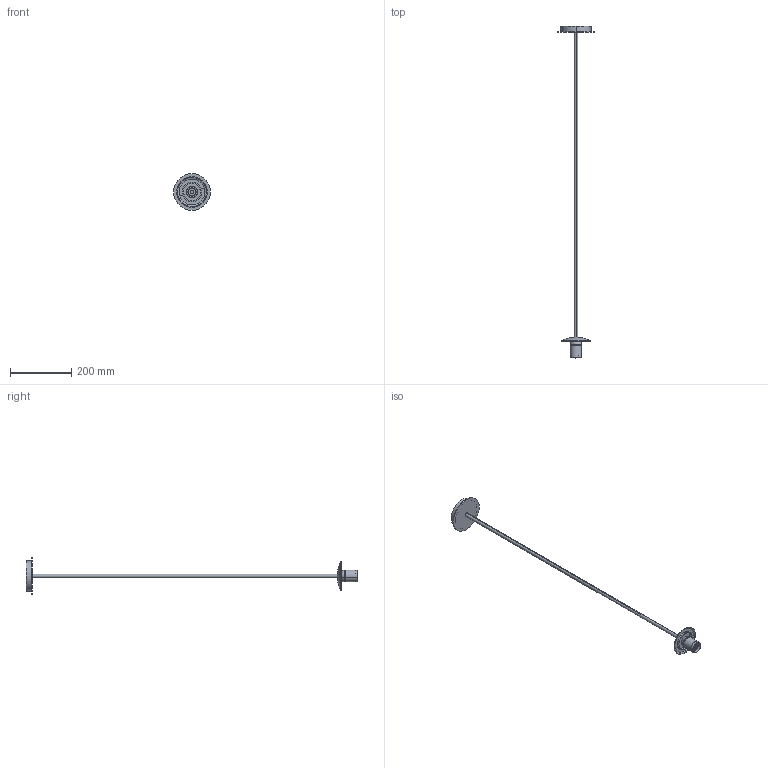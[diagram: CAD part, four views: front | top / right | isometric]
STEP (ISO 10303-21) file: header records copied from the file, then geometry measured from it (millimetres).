
FILE_DESCRIPTION (( 'STEP AP203' ), '1' );
FILE_NAME ('PARMA STEM 1 LUZ.STEP', '2026-01-21T12:17:45', ( '' ), ( '' ), 'SwSTEP 2.0', 'SolidWorks 2025', '' );
FILE_SCHEMA (( 'CONFIG_CONTROL_DESIGN' ));
Length unit declared in the file: millimetre
Products named in the file (5): PARMA STEM 1 LUZ; Base Parma Shifa; Parma stem 1 luz; Portalamparas E27 Parma; BaseParmaConCasquillo
Assembly tree (4 placements, depth 3):
  PARMA STEM 1 LUZ
    Parma stem 1 luz
    BaseParmaConCasquillo
      Base Parma Shifa
      Portalamparas E27 Parma
Bounding box: 120 x 1087.4 x 120 mm (x, y, z)
Volume: 281863.3 mm3; surface area: 142274.1 mm2
Topology: 4 solids, 4 shells, 74 faces, 157 edges, 98 vertices
Faces by surface type: cylinder 43, plane 17, torus 8, bspline 4, cone 2
Entity records: 3701 total; most frequent: CARTESIAN_POINT 1613, DIRECTION 359, ORIENTED_EDGE 314, AXIS2_PLACEMENT_3D 157, EDGE_CURVE 157, VERTEX_POINT 98, EDGE_LOOP 85, CIRCLE 79
